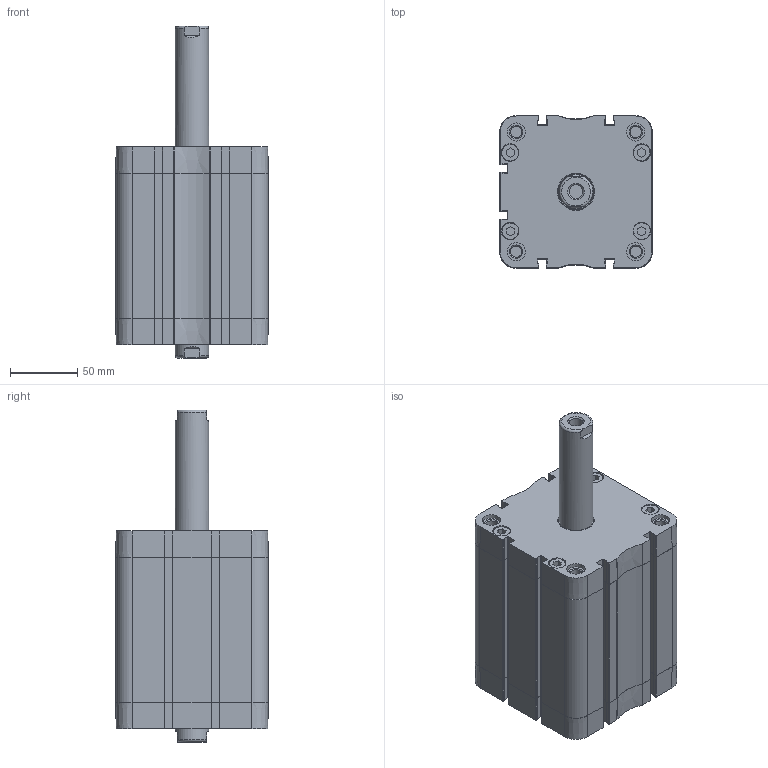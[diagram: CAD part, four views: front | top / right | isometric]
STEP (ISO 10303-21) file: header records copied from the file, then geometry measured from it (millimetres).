
FILE_DESCRIPTION(/* description */ ('Unknown'),/* implementation_level */ '2;1');
FILE_NAME(/* name */ 'ZBN 100_80',/* time_stamp */ '2024-11-18T08:31:01+01:00',/* author */ ('Unknown'),/* organization */ ('Unknown'),/* preprocessor_version */ 'ST-DEVELOPER v16.7',/* originating_system */ 'Solid Edge',/* authorisation */ 'Unknown');
FILE_SCHEMA (('AUTOMOTIVE_DESIGN {1 0 10303 214 3 1 1}'));
Length unit declared in the file: millimetre
Products named in the file (5): ZBN 100_80; Kit_2; Profilrohr; Kolbenstange; Kit_1
Assembly tree (5 placements, depth 2):
  ZBN 100_80
    Kit_2
    Profilrohr
    Kolbenstange  x2
    Kit_1
Bounding box: 113.5 x 113.5 x 247 mm (x, y, z)
Volume: 1257609.8 mm3; surface area: 241278.7 mm2
Topology: 5 solids, 5 shells, 783 faces, 2083 edges, 1376 vertices
Faces by surface type: plane 362, cylinder 231, bspline 114, cone 52, torus 24
Full cylindrical faces by diameter (mm): 8.376 x8, 8.566 x2, 10.106 x4, 13.1 x8, 13.5 x8, 25 x2, 25.6 x2, 26.9 x2, 28 x2, 29.8 x2, 30 x2, 100 x3
Entity records: 29341 total; most frequent: CARTESIAN_POINT 6266, ORIENTED_EDGE 3884, DIRECTION 3532, EDGE_CURVE 1942, VERTEX_POINT 1334, AXIS2_PLACEMENT_3D 1207, LINE 1118, VECTOR 1118
